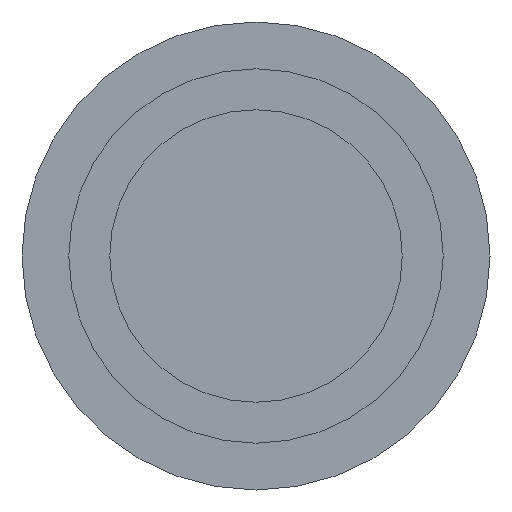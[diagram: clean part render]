
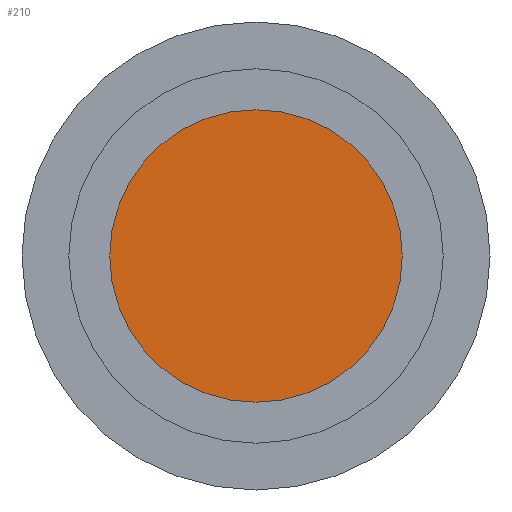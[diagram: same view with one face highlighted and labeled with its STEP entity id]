
A CAD part, front view. The second image highlights one B-rep face of the part: STEP entity #210.
In plain terms, the highlighted planar face has unit normal (0, -1, 0).
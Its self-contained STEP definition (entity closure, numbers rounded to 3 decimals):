
#10=CARTESIAN_POINT('',(34.091,65.629,0.));
#20=DIRECTION('',(0.,1.,0.));
#30=DIRECTION('',(1.,-0.,0.));
#40=AXIS2_PLACEMENT_3D('',#10,#20,#30);
#50=PLANE('',#40);
#60=CARTESIAN_POINT('',(30.966,65.629,0.));
#70=DIRECTION('',(0.,1.,0.));
#80=DIRECTION('',(1.,0.,0.));
#90=AXIS2_PLACEMENT_3D('',#60,#70,#80);
#100=CIRCLE('',#90,6.25);
#110=CARTESIAN_POINT('',(37.216,65.629,
0.));
#120=VERTEX_POINT('',#110);
#130=CARTESIAN_POINT('',(24.716,65.629,0.));
#140=VERTEX_POINT('',#130);
#150=EDGE_CURVE('',#120,#140,#100,.T.);
#160=ORIENTED_EDGE('',*,*,#150,.F.);
#170=EDGE_CURVE('',#140,#120,#100,.T.);
#180=ORIENTED_EDGE('',*,*,#170,.F.);
#190=EDGE_LOOP('',(#180,#160));
#200=FACE_OUTER_BOUND('',#190,.T.);
#210=ADVANCED_FACE('',(#200),#50,.F.);
